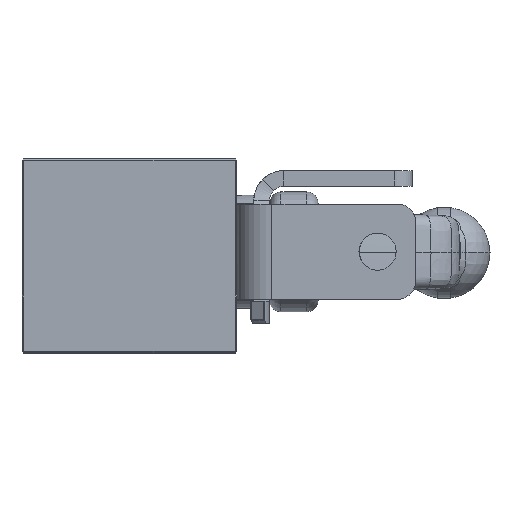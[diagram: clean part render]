
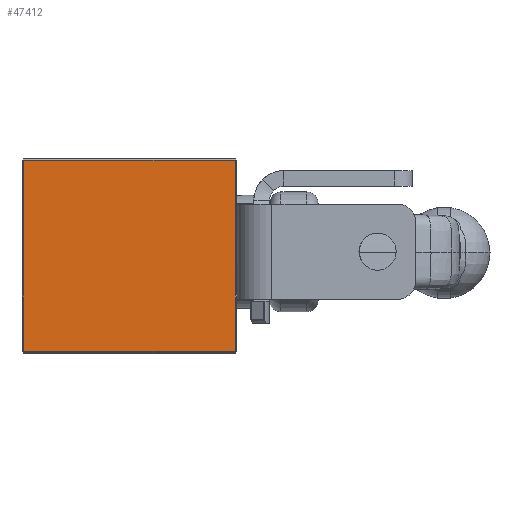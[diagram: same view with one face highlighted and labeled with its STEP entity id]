
A CAD part, top view. The second image highlights one B-rep face of the part: STEP entity #47412.
In plain terms, the highlighted planar face has unit normal (0, 0, 1).
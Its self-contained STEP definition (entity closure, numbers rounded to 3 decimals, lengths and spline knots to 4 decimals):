
#6373 = DIRECTION ( 'NONE',  ( -1., 0., 0. ) ) ;
#12299 = DIRECTION ( 'NONE',  ( 0., -1., 0. ) ) ;
#12615 = EDGE_LOOP ( 'NONE', ( #23437, #53734, #33119, #16605 ) ) ;
#16260 = DIRECTION ( 'NONE',  ( 0., 0., -1. ) ) ;
#16558 = DIRECTION ( 'NONE',  ( 0., 1., 0. ) ) ;
#16605 = ORIENTED_EDGE ( 'NONE', *, *, #32136, .T. ) ;
#17106 = VERTEX_POINT ( 'NONE', #39676 ) ;
#21662 = LINE ( 'NONE', #39493, #30753 ) ;
#22646 = EDGE_CURVE ( 'NONE', #35980, #41752, #49687, .T. ) ;
#23437 = ORIENTED_EDGE ( 'NONE', *, *, #22646, .T. ) ;
#23862 = LINE ( 'NONE', #42279, #36582 ) ;
#24590 = VECTOR ( 'NONE', #44575, 39.3701 ) ;
#24728 = CARTESIAN_POINT ( 'NONE',  ( -1.3635, 0.4973, -0.6129 ) ) ;
#27497 = VECTOR ( 'NONE', #12299, 39.3701 ) ;
#29068 = CARTESIAN_POINT ( 'NONE',  ( -1.3485, 0.5123, -0.6129 ) ) ;
#30753 = VECTOR ( 'NONE', #34375, 39.3701 ) ;
#32136 = EDGE_CURVE ( 'NONE', #54686, #35980, #49972, .T. ) ;
#33119 = ORIENTED_EDGE ( 'NONE', *, *, #46855, .T. ) ;
#34375 = DIRECTION ( 'NONE',  ( 0., 1., 0. ) ) ;
#35198 = CARTESIAN_POINT ( 'NONE',  ( -1.3485, 0.4973, -0.6129 ) ) ;
#35980 = VERTEX_POINT ( 'NONE', #29068 ) ;
#36582 = VECTOR ( 'NONE', #6373, 39.3701 ) ;
#37588 = AXIS2_PLACEMENT_3D ( 'NONE', #24728, #16260, #16558 ) ;
#39486 = FACE_OUTER_BOUND ( 'NONE', #12615, .T. ) ;
#39493 = CARTESIAN_POINT ( 'NONE',  ( 0.8765, 0.4973, -0.6129 ) ) ;
#39676 = CARTESIAN_POINT ( 'NONE',  ( 0.8765, 2.5173, -0.6129 ) ) ;
#41752 = VERTEX_POINT ( 'NONE', #51711 ) ;
#42279 = CARTESIAN_POINT ( 'NONE',  ( -1.3635, 2.5173, -0.6129 ) ) ;
#44575 = DIRECTION ( 'NONE',  ( 1., 0., 0. ) ) ;
#45701 = EDGE_CURVE ( 'NONE', #41752, #17106, #21662, .T. ) ;
#46855 = EDGE_CURVE ( 'NONE', #17106, #54686, #23862, .T. ) ;
#47412 = ADVANCED_FACE ( 'NONE', ( #39486 ), #57915, .F. ) ;
#49026 = CARTESIAN_POINT ( 'NONE',  ( -1.3485, 2.5173, -0.6129 ) ) ;
#49687 = LINE ( 'NONE', #55128, #24590 ) ;
#49972 = LINE ( 'NONE', #35198, #27497 ) ;
#51711 = CARTESIAN_POINT ( 'NONE',  ( 0.8765, 0.5123, -0.6129 ) ) ;
#53734 = ORIENTED_EDGE ( 'NONE', *, *, #45701, .T. ) ;
#54686 = VERTEX_POINT ( 'NONE', #49026 ) ;
#55128 = CARTESIAN_POINT ( 'NONE',  ( -1.3635, 0.5123, -0.6129 ) ) ;
#57915 = PLANE ( 'NONE',  #37588 ) ;
